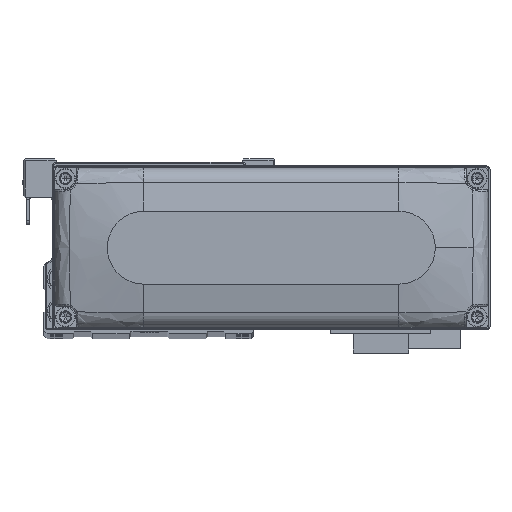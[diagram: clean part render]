
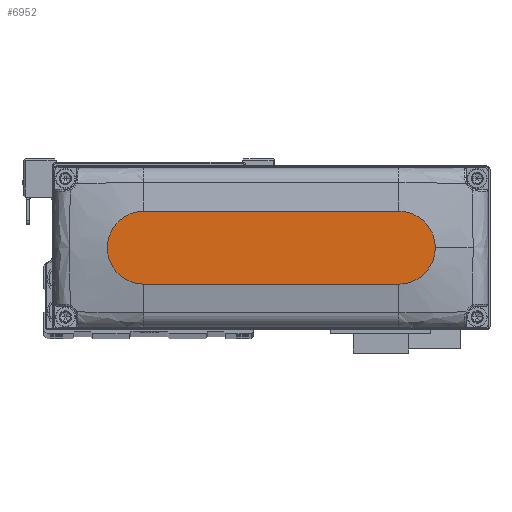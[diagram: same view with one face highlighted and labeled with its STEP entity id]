
A CAD part, top view. The second image highlights one B-rep face of the part: STEP entity #6952.
In plain terms, the highlighted planar face has unit normal (0, 0, 1).
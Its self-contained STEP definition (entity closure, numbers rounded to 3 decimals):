
#1195 = AXIS2_PLACEMENT_3D ( 'NONE', #4512, #16930, #29359 ) ;
#1658 = EDGE_CURVE ( 'NONE', #10706, #1887, #1816, .T. ) ;
#1716 = VERTEX_POINT ( 'NONE', #8404 ) ;
#1816 = CIRCLE ( 'NONE', #24570, 10. ) ;
#1887 = VERTEX_POINT ( 'NONE', #18766 ) ;
#1922 = CARTESIAN_POINT ( 'NONE',  ( -35., 10., 28. ) ) ;
#4512 = CARTESIAN_POINT ( 'NONE',  ( 0., 0., 28. ) ) ;
#4758 = CARTESIAN_POINT ( 'NONE',  ( 35., 0., 28. ) ) ;
#4867 = CARTESIAN_POINT ( 'NONE',  ( -35., -10., 28. ) ) ;
#5010 = ORIENTED_EDGE ( 'NONE', *, *, #5939, .T. ) ;
#5256 = ORIENTED_EDGE ( 'NONE', *, *, #20628, .T. ) ;
#5789 = ORIENTED_EDGE ( 'NONE', *, *, #26639, .T. ) ;
#5939 = EDGE_CURVE ( 'NONE', #19312, #10706, #29600, .T. ) ;
#6741 = DIRECTION ( 'NONE',  ( 0., 0., 1. ) ) ;
#6952 = ADVANCED_FACE ( 'NONE', ( #19973 ), #32401, .T. ) ;
#7549 = VECTOR ( 'NONE', #14340, 1000. ) ;
#8404 = CARTESIAN_POINT ( 'NONE',  ( -35., 10., 28. ) ) ;
#9907 = CARTESIAN_POINT ( 'NONE',  ( 35., 0., 28. ) ) ;
#10351 = EDGE_LOOP ( 'NONE', ( #5256, #5789, #11616, #5010, #38739 ) ) ;
#10706 = VERTEX_POINT ( 'NONE', #18119 ) ;
#11616 = ORIENTED_EDGE ( 'NONE', *, *, #15207, .T. ) ;
#12026 = AXIS2_PLACEMENT_3D ( 'NONE', #9907, #22328, #34746 ) ;
#13514 = CIRCLE ( 'NONE', #36288, 10. ) ;
#14340 = DIRECTION ( 'NONE',  ( -1., 0., 0. ) ) ;
#14895 = VECTOR ( 'NONE', #17282, 1000. ) ;
#15207 = EDGE_CURVE ( 'NONE', #40235, #19312, #32766, .T. ) ;
#16930 = DIRECTION ( 'NONE',  ( 0., 0., 1. ) ) ;
#17174 = DIRECTION ( 'NONE',  ( 0., 0., 1. ) ) ;
#17282 = DIRECTION ( 'NONE',  ( 1., 0., 0. ) ) ;
#18119 = CARTESIAN_POINT ( 'NONE',  ( 45., 0., 28. ) ) ;
#18766 = CARTESIAN_POINT ( 'NONE',  ( 35., 10., 28. ) ) ;
#19155 = DIRECTION ( 'NONE',  ( 1., 0., 0. ) ) ;
#19312 = VERTEX_POINT ( 'NONE', #40124 ) ;
#19973 = FACE_OUTER_BOUND ( 'NONE', #10351, .T. ) ;
#20628 = EDGE_CURVE ( 'NONE', #1887, #1716, #29819, .T. ) ;
#22328 = DIRECTION ( 'NONE',  ( 0., 0., 1. ) ) ;
#24570 = AXIS2_PLACEMENT_3D ( 'NONE', #4758, #17174, #29596 ) ;
#26639 = EDGE_CURVE ( 'NONE', #1716, #40235, #13514, .T. ) ;
#29359 = DIRECTION ( 'NONE',  ( 1., 0., 0. ) ) ;
#29596 = DIRECTION ( 'NONE',  ( 1., 0., 0. ) ) ;
#29600 = CIRCLE ( 'NONE', #12026, 10. ) ;
#29819 = LINE ( 'NONE', #1922, #7549 ) ;
#32401 = PLANE ( 'NONE',  #1195 ) ;
#32766 = LINE ( 'NONE', #4867, #14895 ) ;
#34638 = CARTESIAN_POINT ( 'NONE',  ( -35., 0., 28. ) ) ;
#34746 = DIRECTION ( 'NONE',  ( 1., 0., 0. ) ) ;
#36288 = AXIS2_PLACEMENT_3D ( 'NONE', #34638, #6741, #19155 ) ;
#38706 = CARTESIAN_POINT ( 'NONE',  ( -35., -10., 28. ) ) ;
#38739 = ORIENTED_EDGE ( 'NONE', *, *, #1658, .T. ) ;
#40124 = CARTESIAN_POINT ( 'NONE',  ( 35., -10., 28. ) ) ;
#40235 = VERTEX_POINT ( 'NONE', #38706 ) ;
